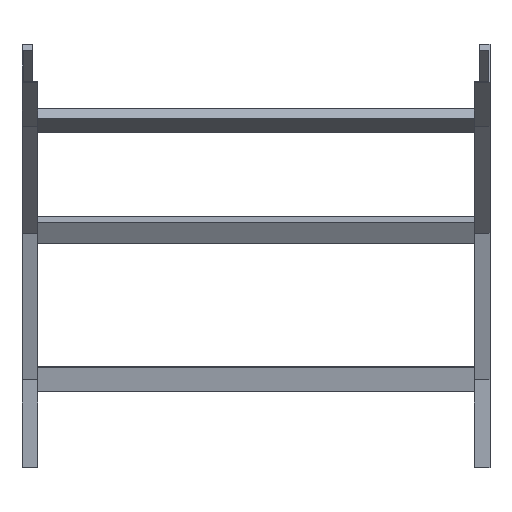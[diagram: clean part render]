
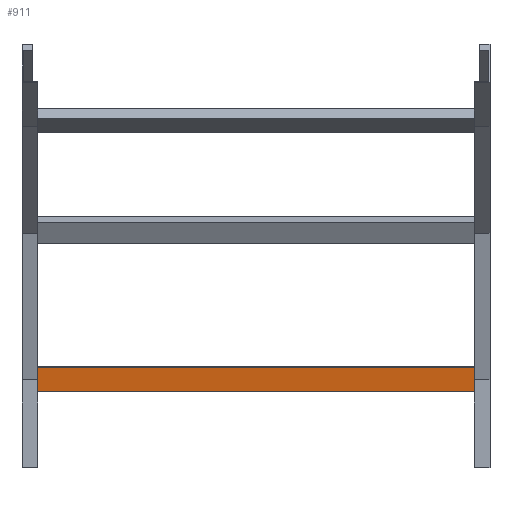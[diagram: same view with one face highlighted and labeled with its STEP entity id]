
A CAD part, front view. The second image highlights one B-rep face of the part: STEP entity #911.
In plain terms, the highlighted planar face has unit normal (0, -0.991, -0.131) as drawn and (0, -1, 0) by its records, which use the part's own axes.
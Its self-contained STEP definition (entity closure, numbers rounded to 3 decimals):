
#76 = LINE ( 'NONE', #214, #506 ) ;
#85 = DIRECTION ( 'NONE',  ( 0., 0., -1. ) ) ;
#113 = CARTESIAN_POINT ( 'NONE',  ( 398., 0., 20.25 ) ) ;
#138 = ORIENTED_EDGE ( 'NONE', *, *, #239, .T. ) ;
#192 = DIRECTION ( 'NONE',  ( 0., 0., -1. ) ) ;
#207 = EDGE_CURVE ( 'NONE', #389, #981, #562, .T. ) ;
#214 = CARTESIAN_POINT ( 'NONE',  ( -398., 0., 20.25 ) ) ;
#239 = EDGE_CURVE ( 'NONE', #466, #1342, #76, .T. ) ;
#362 = CARTESIAN_POINT ( 'NONE',  ( -398., 0., 20.25 ) ) ;
#380 = LINE ( 'NONE', #882, #1153 ) ;
#389 = VERTEX_POINT ( 'NONE', #1086 ) ;
#425 = LINE ( 'NONE', #1193, #1381 ) ;
#466 = VERTEX_POINT ( 'NONE', #362 ) ;
#506 = VECTOR ( 'NONE', #85, 1000. ) ;
#562 = LINE ( 'NONE', #931, #996 ) ;
#623 = PLANE ( 'NONE',  #1209 ) ;
#770 = FACE_OUTER_BOUND ( 'NONE', #1440, .T. ) ;
#882 = CARTESIAN_POINT ( 'NONE',  ( 398., 0., 20.25 ) ) ;
#895 = DIRECTION ( 'NONE',  ( -1., 0., 0. ) ) ;
#911 = ADVANCED_FACE ( 'NONE', ( #770 ), #623, .F. ) ;
#931 = CARTESIAN_POINT ( 'NONE',  ( 398., 0., 20.25 ) ) ;
#933 = DIRECTION ( 'NONE',  ( -1., 0., 0. ) ) ;
#981 = VERTEX_POINT ( 'NONE', #1509 ) ;
#996 = VECTOR ( 'NONE', #192, 1000. ) ;
#1014 = ORIENTED_EDGE ( 'NONE', *, *, #1221, .F. ) ;
#1020 = EDGE_CURVE ( 'NONE', #389, #466, #380, .T. ) ;
#1086 = CARTESIAN_POINT ( 'NONE',  ( 398., 0., 20.25 ) ) ;
#1153 = VECTOR ( 'NONE', #895, 1000. ) ;
#1193 = CARTESIAN_POINT ( 'NONE',  ( 398., 0., -20.25 ) ) ;
#1209 = AXIS2_PLACEMENT_3D ( 'NONE', #113, #1517, #1673 ) ;
#1221 = EDGE_CURVE ( 'NONE', #981, #1342, #425, .T. ) ;
#1284 = ORIENTED_EDGE ( 'NONE', *, *, #1020, .T. ) ;
#1342 = VERTEX_POINT ( 'NONE', #1415 ) ;
#1381 = VECTOR ( 'NONE', #933, 1000. ) ;
#1415 = CARTESIAN_POINT ( 'NONE',  ( -398., 0., -20.25 ) ) ;
#1440 = EDGE_LOOP ( 'NONE', ( #138, #1014, #1531, #1284 ) ) ;
#1509 = CARTESIAN_POINT ( 'NONE',  ( 398., 0., -20.25 ) ) ;
#1517 = DIRECTION ( 'NONE',  ( 0., 1., 0. ) ) ;
#1531 = ORIENTED_EDGE ( 'NONE', *, *, #207, .F. ) ;
#1673 = DIRECTION ( 'NONE',  ( 0., 0., 1. ) ) ;
